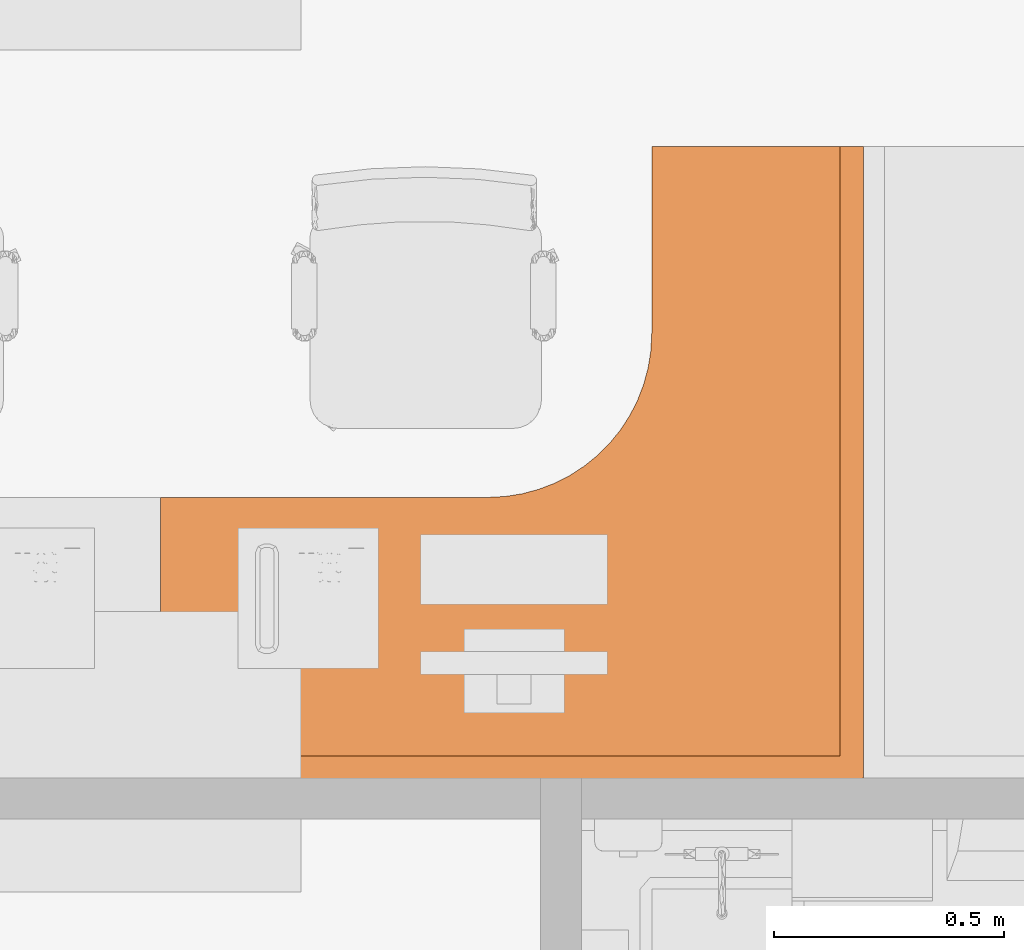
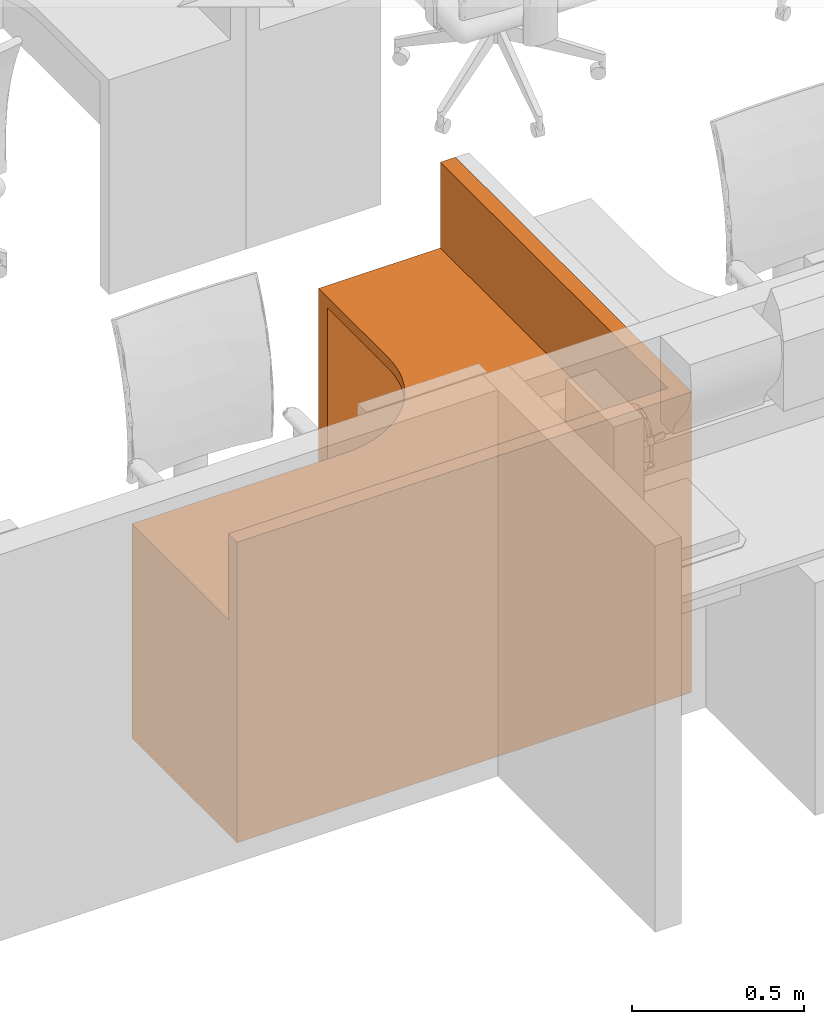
# One storey, part 55 of 142: 1 proxy.
"""IFC2X3 building model written with IfcOpenShell, lengths in feet."""

from ifc_helpers import new_model, entity, si_unit, converted_unit, derived_unit, direction, frame, frame_2d, origin, place, context, subcontext, project, spatial, polyline, circle_curve, parameter, trimmed, segment, composite_curve, rectangle, outline, extrude, source, transform, mapped, type_object, type_shapes, element, save


model = new_model("IFC2X3")

# Units and contexts
model_context = context("Model", 3, precision=0.0001, world=origin(), true_north=direction((6.12303176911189e-17, 1.0)))
body_context = subcontext(model_context, "Body", "Model", "MODEL_VIEW")
ifc_project = project(units=[converted_unit("LENGTHUNIT", "FOOT", entity("IfcRatioMeasure", 0.3048), si_unit("LENGTHUNIT", "METRE"), dimensions=[1, 0, 0, 0, 0, 0, 0]), converted_unit("AREAUNIT", "SQUARE FOOT", entity("IfcRatioMeasure", 0.09290304), si_unit("AREAUNIT", "SQUARE_METRE"), dimensions=[2, 0, 0, 0, 0, 0, 0]), converted_unit("VOLUMEUNIT", "CUBIC FOOT", entity("IfcRatioMeasure", 0.028316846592), si_unit("VOLUMEUNIT", "CUBIC_METRE"), dimensions=[3, 0, 0, 0, 0, 0, 0]), converted_unit("PLANEANGLEUNIT", "DEGREE", entity("IfcRatioMeasure", 0.0174532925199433), si_unit("PLANEANGLEUNIT", "RADIAN"), dimensions=[0, 0, 0, 0, 0, 0, 0]), si_unit("MASSUNIT", "GRAM", prefix="KILO"), derived_unit("MASSDENSITYUNIT", [(si_unit("MASSUNIT", "GRAM", prefix="KILO"), 1), (si_unit("LENGTHUNIT", "METRE"), -3)]), si_unit("TIMEUNIT", "SECOND"), si_unit("FREQUENCYUNIT", "HERTZ"), si_unit("THERMODYNAMICTEMPERATUREUNIT", "DEGREE_CELSIUS"), derived_unit("THERMALTRANSMITTANCEUNIT", [(si_unit("MASSUNIT", "GRAM", prefix="KILO"), 1), (si_unit("THERMODYNAMICTEMPERATUREUNIT", "KELVIN"), -1), (si_unit("TIMEUNIT", "SECOND"), -3)]), derived_unit("VOLUMETRICFLOWRATEUNIT", [(si_unit("LENGTHUNIT", "METRE"), 3), (si_unit("TIMEUNIT", "SECOND"), -1)]), si_unit("ELECTRICCURRENTUNIT", "AMPERE"), si_unit("ELECTRICVOLTAGEUNIT", "VOLT"), si_unit("POWERUNIT", "WATT"), si_unit("FORCEUNIT", "NEWTON"), si_unit("ILLUMINANCEUNIT", "LUX"), si_unit("LUMINOUSFLUXUNIT", "LUMEN"), si_unit("LUMINOUSINTENSITYUNIT", "CANDELA"), derived_unit("USERDEFINED", [(si_unit("MASSUNIT", "GRAM", prefix="KILO"), -1), (si_unit("LENGTHUNIT", "METRE"), -2), (si_unit("TIMEUNIT", "SECOND"), 3), (si_unit("LUMINOUSFLUXUNIT", "LUMEN"), 1)]), derived_unit("LINEARVELOCITYUNIT", [(si_unit("LENGTHUNIT", "METRE"), 1), (si_unit("TIMEUNIT", "SECOND"), -1)]), si_unit("PRESSUREUNIT", "PASCAL"), derived_unit("USERDEFINED", [(si_unit("LENGTHUNIT", "METRE"), -2), (si_unit("MASSUNIT", "GRAM", prefix="KILO"), 1), (si_unit("TIMEUNIT", "SECOND"), -2)])], contexts=[model_context])

# Site, building, storey, space
site_placement = place(None, origin())
site = spatial("IfcSite", under=ifc_project, at=site_placement, Name="Default", CompositionType="ELEMENT")
building_placement = place(site_placement, origin())
building = spatial("IfcBuilding", under=site, at=building_placement, Name="OUTPATIENT / PACT CLINIC (Ch. 265)", CompositionType="ELEMENT")
storey_placement = place(building_placement, origin())
storey = spatial("IfcBuildingStorey", under=building, at=storey_placement, Name="LEVEL 1", CompositionType="ELEMENT", Elevation=0.0)
space_placement = place(storey_placement, origin())
space = spatial("IfcSpace", under=storey, at=space_placement, Name="WRTM1", CompositionType="ELEMENT", InteriorOrExteriorSpace="INTERNAL")

# Proxy
building_element_proxy_type = type_object("IfcBuildingElementProxyType", Name="U0075 - Workstation, L-Shaped, Freestanding, 60x54", PredefinedType="NOTDEFINED")
shared_shape = source(origin(), body_context, "Body", "SweptSolid", [
    extrude(rectangle(XDim=2.0, YDim=0.166666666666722, at=frame_2d((-1.11022302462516e-16, -1.3836154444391e-14), x_axis=(1.0, 0.0))), frame((0.0833333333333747, 1.0, 0.0), z_axis=(0.0, 0.0, 1.0), x_axis=(0.0, 1.0, 0.0)), (0.0, 0.0, 1.0), 2.375),
    extrude(rectangle(XDim=1.5, YDim=0.166666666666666, at=frame_2d((-4.44089209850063e-16, 0.0), x_axis=(1.0, 0.0))), frame((4.25000000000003, 4.41666666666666, 0.0), z_axis=(0.0, 0.0, 1.0), x_axis=(-1.0, 0.0, 0.0)), (0.0, 0.0, 1.0), 2.37499999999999),
    extrude(outline(composite_curve([segment(polyline([(-2.3095238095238, -2.23809523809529), (2.19047619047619, -2.23809523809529)]), True, "CONTINUOUS"), segment(polyline([(2.19047619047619, -2.23809523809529), (2.19047619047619, -0.738095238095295)]), True, "CONTINUOUS"), segment(polyline([(2.19047619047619, -0.738095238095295), (0.857142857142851, -0.738095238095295)]), True, "CONTINUOUS"), segment(trimmed(circle_curve(frame_2d((0.857142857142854, 0.428571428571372), x_axis=(0.0, 1.0)), 1.16666666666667), [parameter(90.0)], [parameter(180.0)], True, "PARAMETER"), False, "CONTINUOUS"), segment(polyline([(-0.309523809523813, 0.428571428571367), (-0.309523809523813, 2.7619047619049)]), True, "CONTINUOUS"), segment(polyline([(-0.309523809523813, 2.7619047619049), (-2.3095238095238, 2.7619047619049)]), True, "CONTINUOUS"), segment(polyline([(-2.3095238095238, 2.7619047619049), (-2.3095238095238, -2.23809523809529)]), True, "CONTINUOUS")], self_intersect=False)), frame((2.76190476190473, 2.30952380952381, 2.37499999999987), z_axis=(0.0, 0.0, 1.0), x_axis=(0.0, 1.0, 0.0)), (0.0, 0.0, 1.0), 0.125),
    extrude(outline(polyline([(-2.16666666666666, -2.16666666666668), (2.33333333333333, -2.16666666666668), (2.33333333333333, -0.666666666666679), (-0.16666666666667, -0.666666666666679), (-0.16666666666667, 2.83333333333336), (-2.16666666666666, 2.83333333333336), (-2.16666666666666, -2.16666666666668)])), frame((2.83333333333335, 2.16666666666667, 2.37499999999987), z_axis=(0.0, 0.0, 1.0), x_axis=(0.0, 1.0, 0.0)), (0.0, 0.0, 1.0), 0.125),
    extrude(rectangle(XDim=0.166666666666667, YDim=5.00000000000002, at=frame_2d((2.77555756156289e-17, -2.22044604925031e-16), x_axis=(1.0, 0.0))), frame((2.49999999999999, 0.0750000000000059, 0.0), z_axis=(0.0, 0.0, 1.0), x_axis=(0.0, 1.0, 0.0)), (0.0, 0.0, 1.0), 3.5),
    extrude(rectangle(XDim=0.166666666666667, YDim=4.50000000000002, at=frame_2d((4.44089209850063e-16, 2.22044604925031e-16), x_axis=(1.0, 0.0))), frame((4.92500000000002, 2.25000000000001, 0.0), z_axis=(0.0, 0.0, 1.0), x_axis=(-1.0, 0.0, 0.0)), (0.0, 0.0, 1.0), 3.5),
])
type_shapes(building_element_proxy_type, [shared_shape])
proxy_placement = place(space_placement, frame((414.359283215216, -889.420491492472, 0.0)))
element("IfcBuildingElementProxy", 1, at=proxy_placement, inside=space, type_object=building_element_proxy_type, Name="U0075 - Workstation, L-Shaped, Freestanding, 60x54:U0075 - Workstation, L-Shaped, Freestanding, 60x54", ObjectType="U0075 - Workstation, L-Shaped, Freestanding, 60x54", context=body_context, shape_type="MappedRepresentation", body=[
    mapped(shared_shape, transform((0.0, 0.0, 0.0), scale=1.0)),
])

save(model, "model.ifc")
